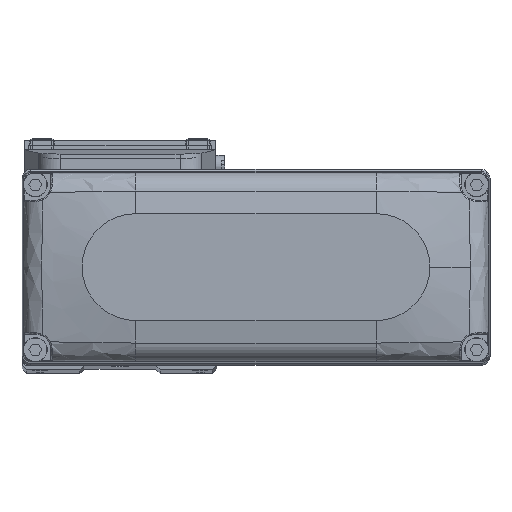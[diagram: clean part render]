
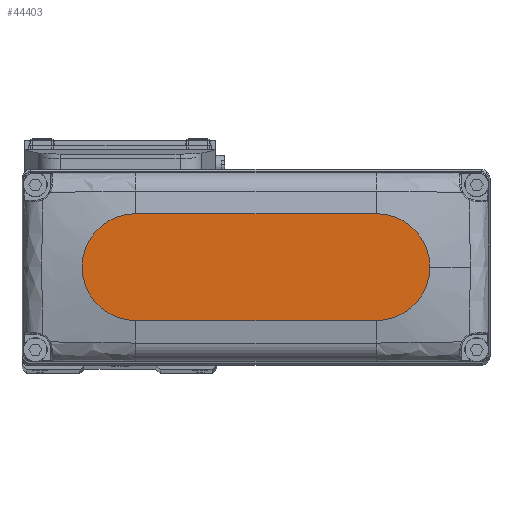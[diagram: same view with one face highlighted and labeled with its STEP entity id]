
A CAD part, top view. The second image highlights one B-rep face of the part: STEP entity #44403.
In plain terms, the highlighted planar face has unit normal (0, 0, 1).
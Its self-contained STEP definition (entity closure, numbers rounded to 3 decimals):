
#11 = AXIS2_PLACEMENT_3D ( 'NONE', #67044, #13455, #37303 ) ;
#2445 = VECTOR ( 'NONE', #51023, 1000. ) ;
#3304 = LINE ( 'NONE', #27181, #2445 ) ;
#4928 = VERTEX_POINT ( 'NONE', #9011 ) ;
#6027 = CARTESIAN_POINT ( 'NONE',  ( -27., 12., 25. ) ) ;
#9011 = CARTESIAN_POINT ( 'NONE',  ( 27., 12., 25. ) ) ;
#9632 = CARTESIAN_POINT ( 'NONE',  ( -27., 0., 25. ) ) ;
#11923 = CARTESIAN_POINT ( 'NONE',  ( -27., -12., 25. ) ) ;
#12260 = ORIENTED_EDGE ( 'NONE', *, *, #31081, .T. ) ;
#12791 = EDGE_LOOP ( 'NONE', ( #72385, #25187, #74741, #26174, #12260 ) ) ;
#13455 = DIRECTION ( 'NONE',  ( 0., 0., 1. ) ) ;
#13768 = VERTEX_POINT ( 'NONE', #67507 ) ;
#14090 = VERTEX_POINT ( 'NONE', #6027 ) ;
#14151 = DIRECTION ( 'NONE',  ( 1., 0., 0. ) ) ;
#18747 = VECTOR ( 'NONE', #35759, 1000. ) ;
#20005 = PLANE ( 'NONE',  #75352 ) ;
#21558 = EDGE_CURVE ( 'NONE', #4928, #14090, #3304, .T. ) ;
#22201 = CARTESIAN_POINT ( 'NONE',  ( 27., -12., 25. ) ) ;
#22635 = CARTESIAN_POINT ( 'NONE',  ( 27., 0., 25. ) ) ;
#25187 = ORIENTED_EDGE ( 'NONE', *, *, #75929, .T. ) ;
#26174 = ORIENTED_EDGE ( 'NONE', *, *, #41159, .T. ) ;
#27181 = CARTESIAN_POINT ( 'NONE',  ( -27., 12., 25. ) ) ;
#28150 = CARTESIAN_POINT ( 'NONE',  ( 39., 0., 25. ) ) ;
#31081 = EDGE_CURVE ( 'NONE', #57777, #4928, #74958, .T. ) ;
#33471 = DIRECTION ( 'NONE',  ( 0., 0., 1. ) ) ;
#33729 = CIRCLE ( 'NONE', #11, 12. ) ;
#35759 = DIRECTION ( 'NONE',  ( 1., 0., 0. ) ) ;
#37303 = DIRECTION ( 'NONE',  ( 1., 0., 0. ) ) ;
#41159 = EDGE_CURVE ( 'NONE', #70276, #57777, #33729, .T. ) ;
#41246 = AXIS2_PLACEMENT_3D ( 'NONE', #22635, #46476, #70362 ) ;
#42445 = AXIS2_PLACEMENT_3D ( 'NONE', #9632, #33471, #57362 ) ;
#43873 = CARTESIAN_POINT ( 'NONE',  ( 0., 0., 25. ) ) ;
#44403 = ADVANCED_FACE ( 'NONE', ( #73624 ), #20005, .T. ) ;
#46476 = DIRECTION ( 'NONE',  ( 0., 0., 1. ) ) ;
#51023 = DIRECTION ( 'NONE',  ( -1., 0., 0. ) ) ;
#57362 = DIRECTION ( 'NONE',  ( 1., 0., 0. ) ) ;
#57777 = VERTEX_POINT ( 'NONE', #28150 ) ;
#62739 = EDGE_CURVE ( 'NONE', #13768, #70276, #65521, .T. ) ;
#65521 = LINE ( 'NONE', #11923, #18747 ) ;
#67044 = CARTESIAN_POINT ( 'NONE',  ( 27., 0., 25. ) ) ;
#67507 = CARTESIAN_POINT ( 'NONE',  ( -27., -12., 25. ) ) ;
#67744 = DIRECTION ( 'NONE',  ( 0., 0., 1. ) ) ;
#70276 = VERTEX_POINT ( 'NONE', #22201 ) ;
#70362 = DIRECTION ( 'NONE',  ( 1., 0., 0. ) ) ;
#72385 = ORIENTED_EDGE ( 'NONE', *, *, #21558, .T. ) ;
#73624 = FACE_OUTER_BOUND ( 'NONE', #12791, .T. ) ;
#74741 = ORIENTED_EDGE ( 'NONE', *, *, #62739, .T. ) ;
#74958 = CIRCLE ( 'NONE', #41246, 12. ) ;
#75352 = AXIS2_PLACEMENT_3D ( 'NONE', #43873, #67744, #14151 ) ;
#75929 = EDGE_CURVE ( 'NONE', #14090, #13768, #76190, .T. ) ;
#76190 = CIRCLE ( 'NONE', #42445, 12. ) ;
